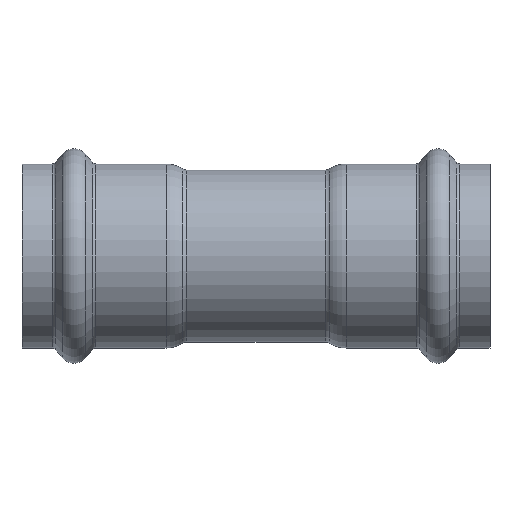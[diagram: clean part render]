
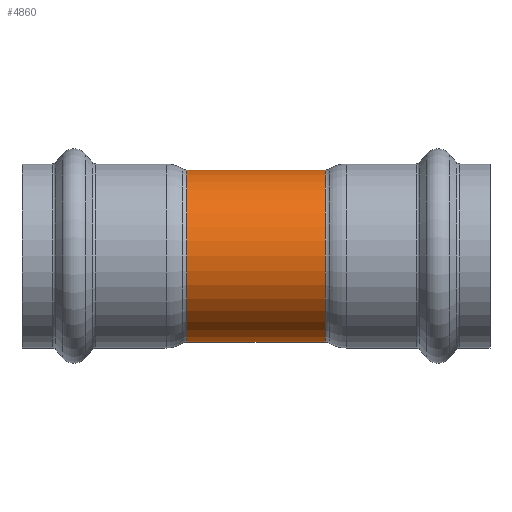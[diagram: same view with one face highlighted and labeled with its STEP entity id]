
A CAD part, front view. The second image highlights one B-rep face of the part: STEP entity #4860.
In plain terms, the highlighted cylindrical face has radius 21.5 mm (diameter 43 mm), a partial arc.
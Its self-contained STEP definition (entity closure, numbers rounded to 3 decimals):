
#161 = CIRCLE ( 'NONE', #3900, 21.5 ) ;
#516 = CYLINDRICAL_SURFACE ( 'NONE', #4315, 21.5 ) ;
#868 = VERTEX_POINT ( 'NONE', #4684 ) ;
#907 = DIRECTION ( 'NONE',  ( -1., 0., 0. ) ) ;
#1001 = CARTESIAN_POINT ( 'NONE',  ( -17.486, 0., 21.5 ) ) ;
#1417 = LINE ( 'NONE', #2230, #3259 ) ;
#1646 = CARTESIAN_POINT ( 'NONE',  ( 17.289, 0., 0. ) ) ;
#1680 = FACE_OUTER_BOUND ( 'NONE', #4370, .T. ) ;
#1704 = EDGE_CURVE ( 'NONE', #4942, #868, #4771, .T. ) ;
#1732 = ORIENTED_EDGE ( 'NONE', *, *, #3002, .T. ) ;
#1856 = ORIENTED_EDGE ( 'NONE', *, *, #1704, .T. ) ;
#2039 = DIRECTION ( 'NONE',  ( 0., 0., 1. ) ) ;
#2230 = CARTESIAN_POINT ( 'NONE',  ( -17.486, 0., -21.5 ) ) ;
#2305 = ORIENTED_EDGE ( 'NONE', *, *, #3663, .F. ) ;
#2811 = AXIS2_PLACEMENT_3D ( 'NONE', #1646, #4381, #2039 ) ;
#2978 = VERTEX_POINT ( 'NONE', #4114 ) ;
#2992 = ORIENTED_EDGE ( 'NONE', *, *, #4005, .F. ) ;
#3002 = EDGE_CURVE ( 'NONE', #868, #2978, #3076, .T. ) ;
#3076 = LINE ( 'NONE', #1001, #3975 ) ;
#3169 = CARTESIAN_POINT ( 'NONE',  ( 17.289, 0., -21.5 ) ) ;
#3259 = VECTOR ( 'NONE', #4174, 1000. ) ;
#3263 = CARTESIAN_POINT ( 'NONE',  ( -17.289, 0., 0. ) ) ;
#3344 = VERTEX_POINT ( 'NONE', #3612 ) ;
#3612 = CARTESIAN_POINT ( 'NONE',  ( -17.289, 0., -21.5 ) ) ;
#3647 = DIRECTION ( 'NONE',  ( 0., 0., 1. ) ) ;
#3663 = EDGE_CURVE ( 'NONE', #4942, #3344, #1417, .T. ) ;
#3786 = DIRECTION ( 'NONE',  ( -1., 0., 0. ) ) ;
#3900 = AXIS2_PLACEMENT_3D ( 'NONE', #3263, #907, #3647 ) ;
#3975 = VECTOR ( 'NONE', #3786, 1000. ) ;
#4005 = EDGE_CURVE ( 'NONE', #3344, #2978, #161, .T. ) ;
#4114 = CARTESIAN_POINT ( 'NONE',  ( -17.289, 0., 21.5 ) ) ;
#4174 = DIRECTION ( 'NONE',  ( -1., 0., 0. ) ) ;
#4271 = DIRECTION ( 'NONE',  ( 0., 0., 1. ) ) ;
#4315 = AXIS2_PLACEMENT_3D ( 'NONE', #4640, #4670, #4271 ) ;
#4370 = EDGE_LOOP ( 'NONE', ( #2305, #1856, #1732, #2992 ) ) ;
#4381 = DIRECTION ( 'NONE',  ( -1., 0., 0. ) ) ;
#4640 = CARTESIAN_POINT ( 'NONE',  ( -17.486, 0., 0. ) ) ;
#4670 = DIRECTION ( 'NONE',  ( -1., 0., 0. ) ) ;
#4684 = CARTESIAN_POINT ( 'NONE',  ( 17.289, 0., 21.5 ) ) ;
#4771 = CIRCLE ( 'NONE', #2811, 21.5 ) ;
#4860 = ADVANCED_FACE ( 'NONE', ( #1680 ), #516, .T. ) ;
#4942 = VERTEX_POINT ( 'NONE', #3169 ) ;
